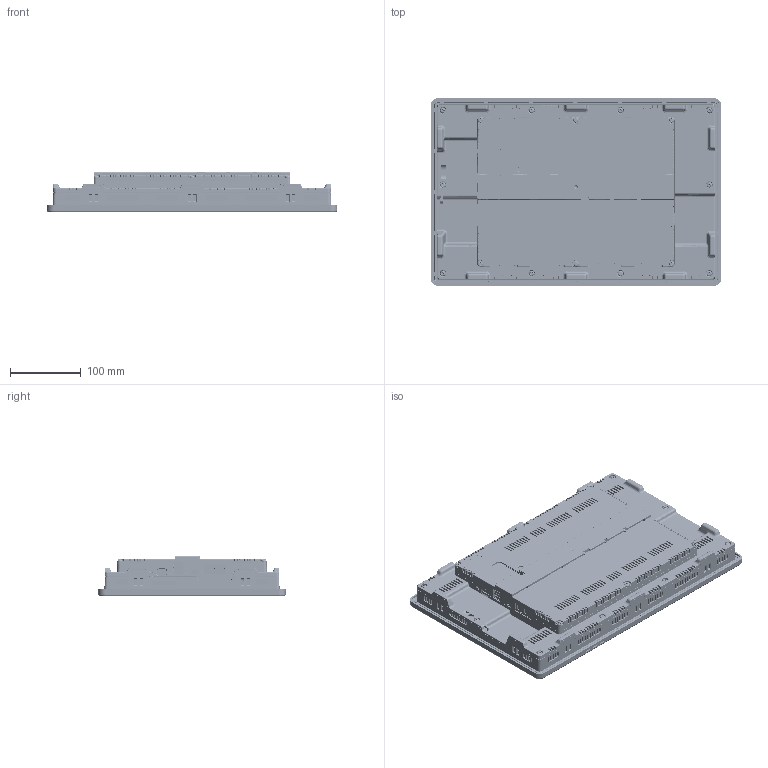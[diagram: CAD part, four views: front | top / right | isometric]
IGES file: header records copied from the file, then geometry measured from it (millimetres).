
Start section: SolidWorks IGES file using analytic representation for surfaces
Global section: file name: D:\Project\UniStream\CAD Files\3D\IGES\USP-156-B10.IGS; native system: SolidWorks 2011; preprocessor: SolidWorks 2011; author: baraki; date: 141020.105826; units: millimetre
Bounding box: 411.09 x 265.09 x 55.6 mm (x, y, z)
Surface area: 445507.7 mm2 (no closed solid volume)
Topology: 0 solids, 0 shells, 7566 faces, 67036 edges, 66830 vertices
Faces by surface type: bspline 5397, revolution 2169
